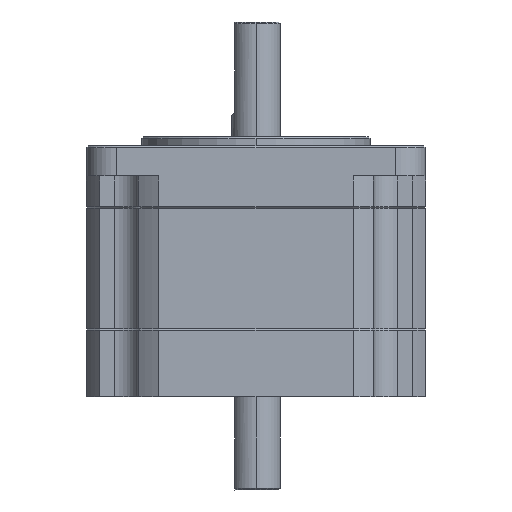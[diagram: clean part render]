
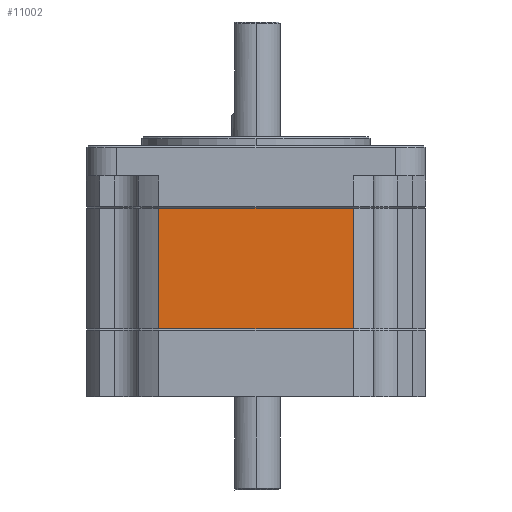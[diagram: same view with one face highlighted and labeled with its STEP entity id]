
A CAD part, front view. The second image highlights one B-rep face of the part: STEP entity #11002.
In plain terms, the highlighted planar face has unit normal (0, -1, 0).
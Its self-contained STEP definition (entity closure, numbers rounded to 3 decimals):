
#68 = DIRECTION ( 'NONE',  ( 0., 0., -1. ) ) ;
#415 = LINE ( 'NONE', #14252, #2567 ) ;
#2567 = VECTOR ( 'NONE', #10161, 1000. ) ;
#3820 = EDGE_CURVE ( 'NONE', #4930, #4893, #415, .T. ) ;
#4466 = ORIENTED_EDGE ( 'NONE', *, *, #13485, .F. ) ;
#4680 = ORIENTED_EDGE ( 'NONE', *, *, #9481, .T. ) ;
#4893 = VERTEX_POINT ( 'NONE', #13455 ) ;
#4930 = VERTEX_POINT ( 'NONE', #10923 ) ;
#5028 = LINE ( 'NONE', #13302, #16595 ) ;
#5350 = VECTOR ( 'NONE', #68, 1000. ) ;
#5360 = DIRECTION ( 'NONE',  ( 0., -1., 0. ) ) ;
#6555 = AXIS2_PLACEMENT_3D ( 'NONE', #13449, #5360, #9552 ) ;
#6891 = ORIENTED_EDGE ( 'NONE', *, *, #17002, .T. ) ;
#7039 = CARTESIAN_POINT ( 'NONE',  ( -16.156, -28.2, 0. ) ) ;
#7504 = EDGE_LOOP ( 'NONE', ( #16757, #4466, #6891, #4680 ) ) ;
#7905 = FACE_OUTER_BOUND ( 'NONE', #7504, .T. ) ;
#9481 = EDGE_CURVE ( 'NONE', #15263, #4930, #14991, .T. ) ;
#9552 = DIRECTION ( 'NONE',  ( 0., 0., -1. ) ) ;
#10161 = DIRECTION ( 'NONE',  ( 1., 0., 0. ) ) ;
#10577 = CARTESIAN_POINT ( 'NONE',  ( 16.156, -28.2, -20. ) ) ;
#10758 = LINE ( 'NONE', #10577, #11621 ) ;
#10923 = CARTESIAN_POINT ( 'NONE',  ( -16.156, -28.2, -20. ) ) ;
#11002 = ADVANCED_FACE ( 'NONE', ( #7905 ), #16105, .T. ) ;
#11621 = VECTOR ( 'NONE', #16051, 1000. ) ;
#12371 = CARTESIAN_POINT ( 'NONE',  ( -16.156, -28.2, -20. ) ) ;
#13134 = DIRECTION ( 'NONE',  ( -1., 0., 0. ) ) ;
#13302 = CARTESIAN_POINT ( 'NONE',  ( -16.156, -28.2, 0. ) ) ;
#13449 = CARTESIAN_POINT ( 'NONE',  ( -16.156, -28.2, -20. ) ) ;
#13455 = CARTESIAN_POINT ( 'NONE',  ( 16.156, -28.2, -20. ) ) ;
#13485 = EDGE_CURVE ( 'NONE', #17084, #4893, #10758, .T. ) ;
#14252 = CARTESIAN_POINT ( 'NONE',  ( 0., -28.2, -20. ) ) ;
#14991 = LINE ( 'NONE', #12371, #5350 ) ;
#15263 = VERTEX_POINT ( 'NONE', #7039 ) ;
#16051 = DIRECTION ( 'NONE',  ( 0., 0., -1. ) ) ;
#16105 = PLANE ( 'NONE',  #6555 ) ;
#16595 = VECTOR ( 'NONE', #13134, 1000. ) ;
#16757 = ORIENTED_EDGE ( 'NONE', *, *, #3820, .T. ) ;
#17002 = EDGE_CURVE ( 'NONE', #17084, #15263, #5028, .T. ) ;
#17030 = CARTESIAN_POINT ( 'NONE',  ( 16.156, -28.2, 0. ) ) ;
#17084 = VERTEX_POINT ( 'NONE', #17030 ) ;
